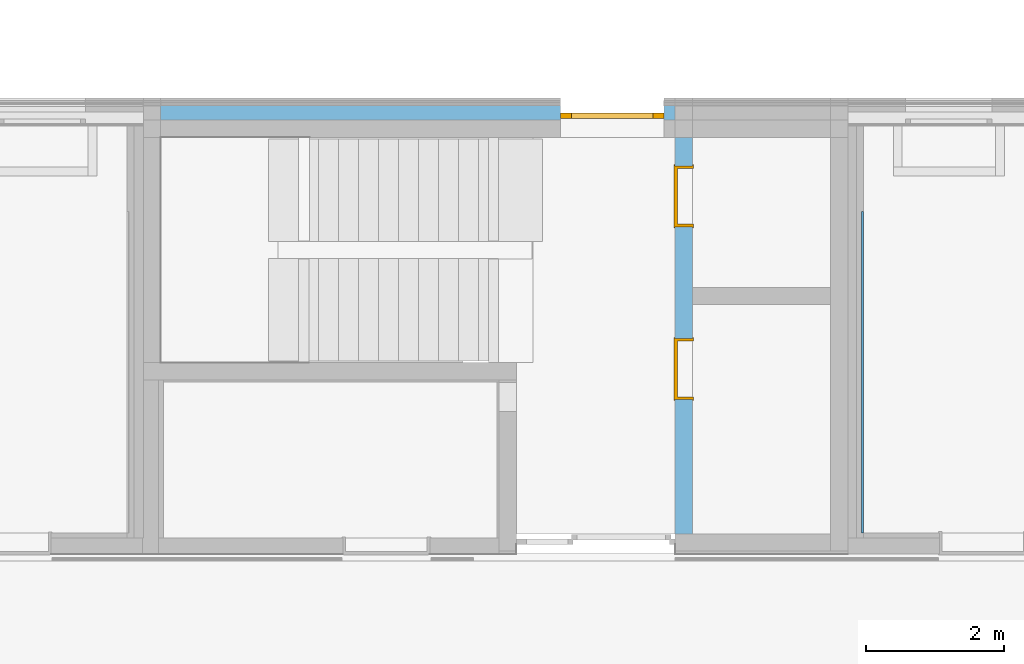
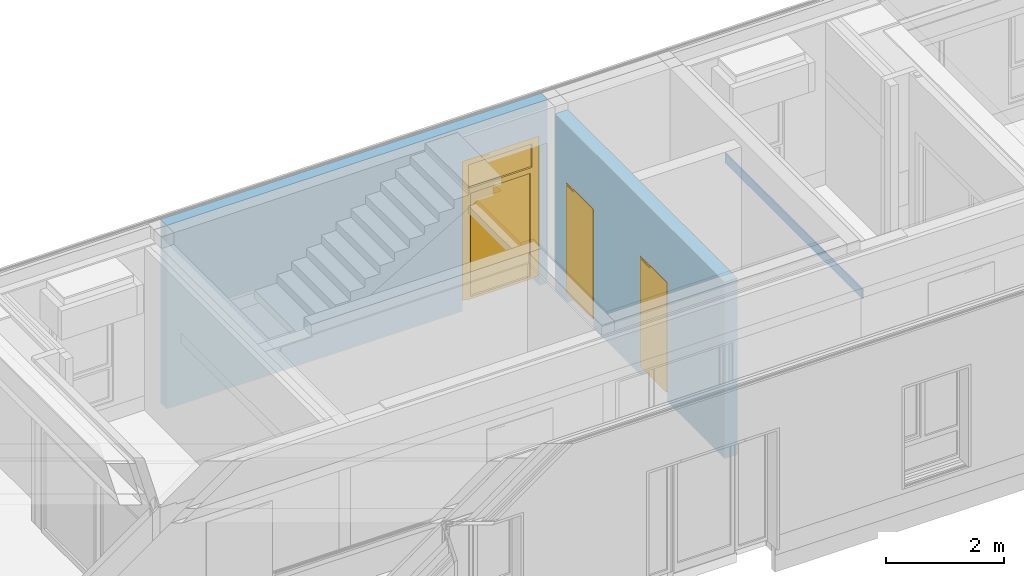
# One storey, part 116 of 207: 3 doors, 1 wall, 3 openings, plus 2 elements that do not belong to this part.
"""IFC4 building model written with IfcOpenShell, lengths in metres."""

from ifc_helpers import new_model, entity, si_unit, converted_unit, derived_unit, frame, frame_2d, origin, origin_with_axes, place, context, subcontext, project, spatial, polyline, rectangle, outline, extrude, closed_shell, open_shell, faceted_brep, surface_model, source, transform, mapped, material, type_object, element, fill, save


model = new_model("IFC4")

# Units and contexts
model_context = context("Model", 3, precision=1e-05, world=origin())
body_context = subcontext(model_context, "Body", "Model", "MODEL_VIEW")
ifc_project = project(units=[si_unit("LENGTHUNIT", "METRE"), si_unit("AREAUNIT", "SQUARE_METRE"), si_unit("VOLUMEUNIT", "CUBIC_METRE"), si_unit("MASSUNIT", "GRAM", prefix="KILO"), converted_unit("PLANEANGLEUNIT", "DEGREE", entity("IfcPlaneAngleMeasure", 0.0174532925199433), si_unit("PLANEANGLEUNIT", "RADIAN"), dimensions=[0, 0, 0, 0, 0, 0, 0]), derived_unit("THERMALTRANSMITTANCEUNIT", [(si_unit("POWERUNIT", "WATT"), 1), (si_unit("THERMODYNAMICTEMPERATUREUNIT", "KELVIN"), -1), (si_unit("LENGTHUNIT", "METRE"), -2)]), derived_unit("VOLUMETRICFLOWRATEUNIT", [(si_unit("LENGTHUNIT", "METRE"), 3), (converted_unit("TIMEUNIT", "hour", entity("IfcTimeMeasure", 3600.0), si_unit("TIMEUNIT", "SECOND"), dimensions=[0, 0, 1, 0, 0, 0, 0]), -1), (si_unit("LENGTHUNIT", "METRE"), -1)])], contexts=[model_context])

# Site, building, storey
site_placement = place(None, origin())
site = spatial("IfcSite", under=ifc_project, at=site_placement, Name="Psychiatrie Neubau Wunstorf", CompositionType="ELEMENT")
building_placement = place(site_placement, origin())
building = spatial("IfcBuilding", under=site, at=building_placement, Name="Neubau H2 Stationsgebäude", CompositionType="ELEMENT")
storey_placement = place(building_placement, frame((0.0, 0.0, -0.2)))
storey = spatial("IfcBuildingStorey", under=building, at=storey_placement, Name="H2 Ebene 0", CompositionType="ELEMENT", Elevation=-0.2)

# Wall, opening, door
ifc_material_1 = material(Name="WA-DL")
wall_1_placement = place(storey_placement, frame((48.15, 29.1449996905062, 0.0)))
wall_1 = element("IfcWall", 1, at=wall_1_placement, inside=storey, material=ifc_material_1, context=body_context, shape_type="SweptSolid", body=[
    extrude(rectangle(XDim=7.45, YDim=0.21, at=frame_2d((3.725, 0.105), x_axis=(1.0, 0.0))), origin_with_axes(), (0.0, 0.0, 1.0), 3.8),
])
opening_1_placement = place(wall_1_placement, frame((7.28750000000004, 0.21, 0.0), z_axis=(0.0, -1.0, 0.0), x_axis=(0.0, 0.0, 1.0)))
opening_1 = element("IfcOpeningElement", 2, at=opening_1_placement, cuts=wall_1, Name="Türöffnung", ObjectType="Opening", context=body_context, shape_type="SweptSolid", body=[
    extrude(outline(polyline([(3.1, 1.5000257), (3.1, 0.0), (0.0, 0.0), (0.0, 1.5000257), (3.1, 1.5000257)])), origin_with_axes(), (0.0, 0.0, 1.0), 0.21),
])
ifc_material_2 = material(Name="TA-1F-AG-D")
door_type_1 = type_object("IfcDoorType", Name="SMT", OperationType="SINGLE_SWING_RIGHT", ParameterTakesPrecedence=False, PredefinedType="DOOR")
shared_shape_1 = source(origin_with_axes(), body_context, "Body", "SurfaceModel", [
    surface_model("IfcShellBasedSurfaceModel", [(0.0, 0.0795, 3.1), (0.0, 0.0795, 0.2), (0.0499999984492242, 0.0795, 0.2), (0.0499999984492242, 0.0795, 3.1), (0.0, 0.0005, 0.2), (0.0, 0.0005, 3.1), (0.0499999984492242, 0.0005, 3.1), (0.0499999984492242, 0.0005, 0.2)], [closed_shell([[[0, 1, 2, 3]], [[4, 5, 6, 7]], [[1, 0, 5, 4]], [[2, 1, 4, 7]], [[3, 2, 7, 6]], [[0, 3, 6, 5]]], orient=[[False], [False], [False], [False], [False], [False]])]),
    surface_model("IfcShellBasedSurfaceModel", [(1.45002570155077, 0.0795, 3.1), (1.45002570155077, 0.0795, 0.2), (1.5000257, 0.0795, 0.2), (1.5000257, 0.0795, 3.1), (1.45002570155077, 0.0005, 0.2), (1.45002570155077, 0.0005, 3.1), (1.5000257, 0.0005, 3.1), (1.5000257, 0.0005, 0.2)], [closed_shell([[[0, 1, 2, 3]], [[4, 5, 6, 7]], [[1, 0, 5, 4]], [[2, 1, 4, 7]], [[3, 2, 7, 6]], [[0, 3, 6, 5]]], orient=[[False], [False], [False], [False], [False], [False]])]),
    surface_model("IfcShellBasedSurfaceModel", [(0.0499999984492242, 0.0795, 3.1), (0.0499999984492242, 0.0795, 3.05), (1.45002570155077, 0.0795, 3.05), (1.45002570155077, 0.0795, 3.1), (0.0499999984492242, 0.0005, 3.05), (0.0499999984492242, 0.0005, 3.1), (1.45002570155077, 0.0005, 3.1), (1.45002570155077, 0.0005, 3.05)], [closed_shell([[[0, 1, 2, 3]], [[4, 5, 6, 7]], [[1, 0, 5, 4]], [[2, 1, 4, 7]], [[3, 2, 7, 6]], [[0, 3, 6, 5]]], orient=[[False], [False], [False], [False], [False], [False]])]),
    surface_model("IfcShellBasedSurfaceModel", [(0.0499999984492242, 0.08, 3.05), (0.0499999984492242, 0.08, 0.2), (0.129999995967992, 0.08, 0.2), (0.129999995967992, 0.08, 3.05), (0.0499999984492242, 0.0, 0.2), (0.0499999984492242, 0.0, 3.05), (0.129999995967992, 0.0, 3.05), (0.129999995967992, 0.0, 0.2)], [closed_shell([[[0, 1, 2, 3]], [[4, 5, 6, 7]], [[1, 0, 5, 4]], [[2, 1, 4, 7]], [[3, 2, 7, 6]], [[0, 3, 6, 5]]], orient=[[False], [False], [False], [False], [False], [False]])]),
    surface_model("IfcShellBasedSurfaceModel", [(1.37002570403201, 0.08, 3.05), (1.37002570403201, 0.08, 0.2), (1.45002570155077, 0.08, 0.2), (1.45002570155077, 0.08, 3.05), (1.37002570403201, 0.0, 0.2), (1.37002570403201, 0.0, 3.05), (1.45002570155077, 0.0, 3.05), (1.45002570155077, 0.0, 0.2)], [closed_shell([[[0, 1, 2, 3]], [[4, 5, 6, 7]], [[1, 0, 5, 4]], [[2, 1, 4, 7]], [[3, 2, 7, 6]], [[0, 3, 6, 5]]], orient=[[False], [False], [False], [False], [False], [False]])]),
    surface_model("IfcShellBasedSurfaceModel", [(0.129999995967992, 0.08, 3.05), (0.129999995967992, 0.08, 2.97), (1.37002570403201, 0.08, 2.97), (1.37002570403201, 0.08, 3.05), (0.129999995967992, 0.0, 2.97), (0.129999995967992, 0.0, 3.05), (1.37002570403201, 0.0, 3.05), (1.37002570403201, 0.0, 2.97)], [closed_shell([[[0, 1, 2, 3]], [[4, 5, 6, 7]], [[1, 0, 5, 4]], [[2, 1, 4, 7]], [[3, 2, 7, 6]], [[0, 3, 6, 5]]], orient=[[False], [False], [False], [False], [False], [False]])]),
    surface_model("IfcShellBasedSurfaceModel", [(0.109999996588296, 0.08, 2.42), (0.109999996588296, 0.08, 0.18), (0.159999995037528, 0.08, 0.18), (0.159999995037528, 0.08, 2.42), (0.109999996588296, 0.0, 0.18), (0.109999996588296, 0.0, 2.42), (0.159999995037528, 0.0, 2.42), (0.159999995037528, 0.0, 0.18)], [closed_shell([[[0, 1, 2, 3]], [[4, 5, 6, 7]], [[1, 0, 5, 4]], [[2, 1, 4, 7]], [[3, 2, 7, 6]], [[0, 3, 6, 5]]], orient=[[False], [False], [False], [False], [False], [False]])]),
    surface_model("IfcShellBasedSurfaceModel", [(1.34002570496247, 0.08, 2.42), (1.34002570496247, 0.08, 0.18), (1.3900257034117, 0.08, 0.18), (1.3900257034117, 0.08, 2.42), (1.34002570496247, 0.0, 0.18), (1.34002570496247, 0.0, 2.42), (1.3900257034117, 0.0, 2.42), (1.3900257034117, 0.0, 0.18)], [closed_shell([[[0, 1, 2, 3]], [[4, 5, 6, 7]], [[1, 0, 5, 4]], [[2, 1, 4, 7]], [[3, 2, 7, 6]], [[0, 3, 6, 5]]], orient=[[False], [False], [False], [False], [False], [False]])]),
    surface_model("IfcShellBasedSurfaceModel", [(0.159999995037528, 0.08, 0.23), (0.159999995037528, 0.08, 0.18), (1.34002570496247, 0.08, 0.18), (1.34002570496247, 0.08, 0.23), (0.159999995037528, 0.0, 0.18), (0.159999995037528, 0.0, 0.23), (1.34002570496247, 0.0, 0.23), (1.34002570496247, 0.0, 0.18)], [closed_shell([[[0, 1, 2, 3]], [[4, 5, 6, 7]], [[1, 0, 5, 4]], [[2, 1, 4, 7]], [[3, 2, 7, 6]], [[0, 3, 6, 5]]], orient=[[False], [False], [False], [False], [False], [False]])]),
    surface_model("IfcShellBasedSurfaceModel", [(0.159999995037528, 0.08, 2.42), (0.159999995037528, 0.08, 2.37), (1.34002570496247, 0.08, 2.37), (1.34002570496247, 0.08, 2.42), (0.159999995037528, 0.0, 2.37), (0.159999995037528, 0.0, 2.42), (1.34002570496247, 0.0, 2.42), (1.34002570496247, 0.0, 2.37)], [closed_shell([[[0, 1, 2, 3]], [[4, 5, 6, 7]], [[1, 0, 5, 4]], [[2, 1, 4, 7]], [[3, 2, 7, 6]], [[0, 3, 6, 5]]], orient=[[False], [False], [False], [False], [False], [False]])]),
    surface_model("IfcShellBasedSurfaceModel", [(0.129999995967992, 0.07, 2.481), (0.129999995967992, 0.07, 2.401), (1.37002570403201, 0.07, 2.401), (1.37002570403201, 0.07, 2.481), (0.129999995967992, 0.0, 2.401), (0.129999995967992, 0.0, 2.481), (1.37002570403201, 0.0, 2.481), (1.37002570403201, 0.0, 2.401)], [closed_shell([[[0, 1, 2, 3]], [[4, 5, 6, 7]], [[1, 0, 5, 4]], [[2, 1, 4, 7]], [[3, 2, 7, 6]], [[0, 3, 6, 5]]], orient=[[False], [False], [False], [False], [False], [False]])]),
    surface_model("IfcShellBasedSurfaceModel", [(0.129999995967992, 0.035, 2.481), (1.37002570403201, 0.035, 2.481), (1.37002570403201, 0.035, 2.97), (0.129999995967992, 0.035, 2.97)], [open_shell([[[0, 1, 2, 3]]], orient=[[False]])]),
    surface_model("IfcShellBasedSurfaceModel", [(0.159999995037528, 0.04, 0.23), (1.34002570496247, 0.04, 0.23), (1.34002570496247, 0.04, 2.37), (0.159999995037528, 0.04, 2.37)], [open_shell([[[0, 1, 2, 3]]], orient=[[False]])]),
])
door_1_placement = place(opening_1_placement, frame((0.0, 1.5000257, 0.189), z_axis=(1.0, 0.0, 0.0), x_axis=(0.0, -1.0, 0.0)))
door_1 = element("IfcDoor", 3, at=door_1_placement, inside=storey, type_object=door_type_1, material=ifc_material_2, Name="SMT", OverallHeight=3.1, OverallWidth=1.50003, context=body_context, shape_type="MappedRepresentation", body=[
    mapped(shared_shape_1, transform((0.0, 0.0, 0.0), x_axis=(1.0, 0.0, 0.0), y_axis=(0.0, 1.0, 0.0), z_axis=(0.0, 0.0, 1.0), scale=1.0)),
])
fill(opening_1, door_1)

# Wall
wall_2_placement = place(storey_placement, frame((58.3, 23.1709999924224, 2.35)))
element("IfcWall", 4, at=wall_2_placement, inside=storey, Name="WV 1.1", context=body_context, shape_type="Brep", body=[
    faceted_brep([(0.025, 4.65, 0.0), (0.0, 4.65, 0.0), (0.0, 0.0, 0.0), (0.025, 0.0, 0.0), (0.0, 4.65, 0.2), (0.025, 4.65, 0.2), (0.025, 0.0, 0.2), (0.0, 0.0, 0.2)], [[[0, 1, 2, 3]], [[4, 5, 6, 7]], [[1, 0, 5, 4]], [[2, 1, 4, 7]], [[3, 2, 7, 6]], [[0, 3, 6, 5]]], orient=[[False], [False], [False], [False], [False], [False]]),
])

# Wall, openings, doors
ifc_material_3 = material(Name="WA-STB")
wall_3_placement = place(storey_placement, frame((55.6, 28.8949996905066, 0.0), z_axis=(0.0, 0.0, 1.0), x_axis=(0.0, -1.0, 0.0)))
wall_3 = element("IfcWall", 5, at=wall_3_placement, inside=storey, material=ifc_material_3, context=body_context, shape_type="SweptSolid", body=[
    extrude(rectangle(XDim=5.73999969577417, YDim=0.25, at=frame_2d((2.86999984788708, 0.125), x_axis=(1.0, 0.0))), origin_with_axes(), (0.0, 0.0, 1.0), 3.65),
])
opening_2_placement = place(wall_3_placement, frame((3.79499984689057, 0.25, 0.0), z_axis=(0.0, -1.0, 0.0), x_axis=(0.0, 0.0, 1.0)))
opening_2 = element("IfcOpeningElement", 6, at=opening_2_placement, cuts=wall_3, Name="Türöffnung", ObjectType="Opening", context=body_context, shape_type="SweptSolid", body=[
    extrude(outline(polyline([(2.46, 0.885), (2.46, 0.0), (0.0, 0.0), (0.0, 0.885), (2.46, 0.885)])), origin_with_axes(), (0.0, 0.0, 1.0), 0.25),
])
opening_3_placement = place(wall_3_placement, frame((1.2949999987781, 0.25, 0.0), z_axis=(0.0, -1.0, 0.0), x_axis=(0.0, 0.0, 1.0)))
opening_3 = element("IfcOpeningElement", 7, at=opening_3_placement, cuts=wall_3, Name="Türöffnung", ObjectType="Opening", context=body_context, shape_type="SweptSolid", body=[
    extrude(outline(polyline([(2.46, 0.885), (2.46, 0.0), (0.0, 0.0), (0.0, 0.885), (2.46, 0.885)])), origin_with_axes(), (0.0, 0.0, 1.0), 0.25),
])
ifc_material_4 = material(Name="TI-1F-UZ-ZK")
door_type_2 = type_object("IfcDoorType", Name="SMT", OperationType="SINGLE_SWING_RIGHT", ParameterTakesPrecedence=False, PredefinedType="DOOR")
shared_shape_2 = source(origin_with_axes(), body_context, "Body", "Brep", [
    faceted_brep([(0.884999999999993, -0.0149999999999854, 2.46), (0.884999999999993, -0.0149999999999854, 0.2), (0.844999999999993, -0.0149999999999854, 0.2), (0.844999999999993, -0.0149999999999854, 2.46), (0.884999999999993, 0.265000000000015, 0.2), (0.884999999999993, 0.265000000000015, 2.46), (0.844999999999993, 0.265000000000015, 2.46), (0.844999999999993, 0.265000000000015, 0.2)], [[[0, 1, 2, 3]], [[4, 5, 6, 7]], [[1, 0, 5, 4]], [[2, 1, 4, 7]], [[3, 2, 7, 6]], [[0, 3, 6, 5]]], orient=[[False], [False], [False], [False], [False], [False]]),
    faceted_brep([(0.884999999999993, -0.0149999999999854, 2.475), (0.899999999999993, -0.0149999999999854, 2.475), (0.899999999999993, -0.0149999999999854, 0.2), (0.884999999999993, -0.0149999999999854, 0.2), (0.884999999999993, 0.0, 0.2), (0.899999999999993, 0.0, 0.2), (0.899999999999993, 0.0, 2.475), (0.884999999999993, 0.0, 2.475)], [[[0, 1, 2, 3]], [[4, 5, 6, 7]], [[3, 4, 7, 0]], [[2, 5, 4, 3]], [[1, 6, 5, 2]], [[0, 7, 6, 1]]], orient=[[False], [False], [False], [False], [False], [False]]),
    faceted_brep([(0.884999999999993, 0.250000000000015, 2.475), (0.899999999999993, 0.250000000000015, 2.475), (0.899999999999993, 0.250000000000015, 0.2), (0.884999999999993, 0.250000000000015, 0.2), (0.884999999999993, 0.265000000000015, 0.2), (0.899999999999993, 0.265000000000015, 0.2), (0.899999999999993, 0.265000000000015, 2.475), (0.884999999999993, 0.265000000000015, 2.475)], [[[0, 1, 2, 3]], [[4, 5, 6, 7]], [[3, 4, 7, 0]], [[2, 5, 4, 3]], [[1, 6, 5, 2]], [[0, 7, 6, 1]]], orient=[[False], [False], [False], [False], [False], [False]]),
    faceted_brep([(0.0399999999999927, -0.0149999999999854, 2.46), (0.0399999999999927, -0.0149999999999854, 0.2), (0.0, -0.0149999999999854, 0.2), (0.0, -0.0149999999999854, 2.46), (0.0399999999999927, 0.265000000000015, 0.2), (0.0399999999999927, 0.265000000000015, 2.46), (0.0, 0.265000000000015, 2.46), (0.0, 0.265000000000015, 0.2)], [[[0, 1, 2, 3]], [[4, 5, 6, 7]], [[1, 0, 5, 4]], [[2, 1, 4, 7]], [[3, 2, 7, 6]], [[0, 3, 6, 5]]], orient=[[False], [False], [False], [False], [False], [False]]),
    faceted_brep([(0.0, -0.0149999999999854, 2.475), (0.0, -0.0149999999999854, 0.2), (-0.0150000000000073, -0.0149999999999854, 0.2), (-0.0150000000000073, -0.0149999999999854, 2.475), (0.0, 0.0, 0.2), (0.0, 0.0, 2.475), (-0.0150000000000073, 0.0, 2.475), (-0.0150000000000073, 0.0, 0.2)], [[[0, 1, 2, 3]], [[4, 5, 6, 7]], [[1, 0, 5, 4]], [[2, 1, 4, 7]], [[3, 2, 7, 6]], [[0, 3, 6, 5]]], orient=[[False], [False], [False], [False], [False], [False]]),
    faceted_brep([(0.0, 0.250000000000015, 2.475), (0.0, 0.250000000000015, 0.2), (-0.0150000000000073, 0.250000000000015, 0.2), (-0.0150000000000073, 0.250000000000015, 2.475), (0.0, 0.265000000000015, 0.2), (0.0, 0.265000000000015, 2.475), (-0.0150000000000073, 0.265000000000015, 2.475), (-0.0150000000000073, 0.265000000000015, 0.2)], [[[0, 1, 2, 3]], [[4, 5, 6, 7]], [[1, 0, 5, 4]], [[2, 1, 4, 7]], [[3, 2, 7, 6]], [[0, 3, 6, 5]]], orient=[[False], [False], [False], [False], [False], [False]]),
    faceted_brep([(0.844999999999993, -0.0149999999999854, 2.46), (0.844999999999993, -0.0149999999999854, 2.42), (0.0399999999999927, -0.0149999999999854, 2.42), (0.0399999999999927, -0.0149999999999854, 2.46), (0.844999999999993, 0.265000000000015, 2.42), (0.844999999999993, 0.265000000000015, 2.46), (0.0399999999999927, 0.265000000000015, 2.46), (0.0399999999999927, 0.265000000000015, 2.42)], [[[0, 1, 2, 3]], [[4, 5, 6, 7]], [[1, 0, 5, 4]], [[2, 1, 4, 7]], [[3, 2, 7, 6]], [[0, 3, 6, 5]]], orient=[[False], [False], [False], [False], [False], [False]]),
    faceted_brep([(0.884999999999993, -0.0149999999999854, 2.475), (0.884999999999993, -0.0149999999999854, 2.46), (0.0, -0.0149999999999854, 2.46), (0.0, -0.0149999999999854, 2.475), (0.884999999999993, 0.0, 2.46), (0.884999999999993, 0.0, 2.475), (0.0, 0.0, 2.475), (0.0, 0.0, 2.46)], [[[0, 1, 2, 3]], [[4, 5, 6, 7]], [[1, 0, 5, 4]], [[2, 1, 4, 7]], [[3, 2, 7, 6]], [[0, 3, 6, 5]]], orient=[[False], [False], [False], [False], [False], [False]]),
    faceted_brep([(0.884999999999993, 0.250000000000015, 2.475), (0.884999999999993, 0.250000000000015, 2.46), (0.0, 0.250000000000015, 2.46), (0.0, 0.250000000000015, 2.475), (0.884999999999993, 0.265000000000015, 2.46), (0.884999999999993, 0.265000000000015, 2.475), (0.0, 0.265000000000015, 2.475), (0.0, 0.265000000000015, 2.46)], [[[0, 1, 2, 3]], [[4, 5, 6, 7]], [[1, 0, 5, 4]], [[2, 1, 4, 7]], [[3, 2, 7, 6]], [[0, 3, 6, 5]]], orient=[[False], [False], [False], [False], [False], [False]]),
    faceted_brep([(0.859999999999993, 0.216000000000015, 2.435), (0.859999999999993, 0.216000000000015, 0.2), (0.0249999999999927, 0.216000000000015, 0.2), (0.0249999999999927, 0.216000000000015, 2.435), (0.859999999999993, 0.266000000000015, 0.2), (0.859999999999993, 0.266000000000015, 2.435), (0.0249999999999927, 0.266000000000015, 2.435), (0.0249999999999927, 0.266000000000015, 0.2)], [[[0, 1, 2, 3]], [[4, 5, 6, 7]], [[1, 0, 5, 4]], [[2, 1, 4, 7]], [[3, 2, 7, 6]], [[0, 3, 6, 5]]], orient=[[False], [False], [False], [False], [False], [False]]),
])
door_2_placement = place(opening_2_placement, frame((0.0, 0.0, 0.0), z_axis=(1.0, 0.0, 0.0), x_axis=(0.0, 1.0, 0.0)))
door_2 = element("IfcDoor", 8, at=door_2_placement, inside=storey, type_object=door_type_2, material=ifc_material_4, Name="SMT", OverallHeight=2.46, OverallWidth=0.885, context=body_context, shape_type="MappedRepresentation", body=[
    mapped(shared_shape_2, transform((0.0, 0.0, 0.0), x_axis=(1.0, 0.0, 0.0), y_axis=(0.0, 1.0, 0.0), z_axis=(0.0, 0.0, 1.0), scale=1.0)),
])
fill(opening_2, door_2)
ifc_material_5 = material(Name="TI-1F-UZ-ZK")
door_type_3 = type_object("IfcDoorType", Name="SMT", OperationType="SINGLE_SWING_RIGHT", ParameterTakesPrecedence=False, PredefinedType="DOOR")
shared_shape_3 = source(origin_with_axes(), body_context, "Body", "Brep", [
    faceted_brep([(0.884999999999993, -0.0149999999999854, 2.46), (0.884999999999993, -0.0149999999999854, 0.2), (0.844999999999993, -0.0149999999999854, 0.2), (0.844999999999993, -0.0149999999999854, 2.46), (0.884999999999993, 0.265000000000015, 0.2), (0.884999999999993, 0.265000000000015, 2.46), (0.844999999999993, 0.265000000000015, 2.46), (0.844999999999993, 0.265000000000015, 0.2)], [[[0, 1, 2, 3]], [[4, 5, 6, 7]], [[1, 0, 5, 4]], [[2, 1, 4, 7]], [[3, 2, 7, 6]], [[0, 3, 6, 5]]], orient=[[False], [False], [False], [False], [False], [False]]),
    faceted_brep([(0.884999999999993, -0.0149999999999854, 2.475), (0.899999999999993, -0.0149999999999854, 2.475), (0.899999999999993, -0.0149999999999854, 0.2), (0.884999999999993, -0.0149999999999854, 0.2), (0.884999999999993, 0.0, 0.2), (0.899999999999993, 0.0, 0.2), (0.899999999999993, 0.0, 2.475), (0.884999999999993, 0.0, 2.475)], [[[0, 1, 2, 3]], [[4, 5, 6, 7]], [[3, 4, 7, 0]], [[2, 5, 4, 3]], [[1, 6, 5, 2]], [[0, 7, 6, 1]]], orient=[[False], [False], [False], [False], [False], [False]]),
    faceted_brep([(0.884999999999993, 0.250000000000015, 2.475), (0.899999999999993, 0.250000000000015, 2.475), (0.899999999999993, 0.250000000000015, 0.2), (0.884999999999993, 0.250000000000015, 0.2), (0.884999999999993, 0.265000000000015, 0.2), (0.899999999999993, 0.265000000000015, 0.2), (0.899999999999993, 0.265000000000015, 2.475), (0.884999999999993, 0.265000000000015, 2.475)], [[[0, 1, 2, 3]], [[4, 5, 6, 7]], [[3, 4, 7, 0]], [[2, 5, 4, 3]], [[1, 6, 5, 2]], [[0, 7, 6, 1]]], orient=[[False], [False], [False], [False], [False], [False]]),
    faceted_brep([(0.0399999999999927, -0.0149999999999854, 2.46), (0.0399999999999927, -0.0149999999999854, 0.2), (0.0, -0.0149999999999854, 0.2), (0.0, -0.0149999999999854, 2.46), (0.0399999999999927, 0.265000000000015, 0.2), (0.0399999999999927, 0.265000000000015, 2.46), (0.0, 0.265000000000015, 2.46), (0.0, 0.265000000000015, 0.2)], [[[0, 1, 2, 3]], [[4, 5, 6, 7]], [[1, 0, 5, 4]], [[2, 1, 4, 7]], [[3, 2, 7, 6]], [[0, 3, 6, 5]]], orient=[[False], [False], [False], [False], [False], [False]]),
    faceted_brep([(0.0, -0.0149999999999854, 2.475), (0.0, -0.0149999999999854, 0.2), (-0.0150000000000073, -0.0149999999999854, 0.2), (-0.0150000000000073, -0.0149999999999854, 2.475), (0.0, 0.0, 0.2), (0.0, 0.0, 2.475), (-0.0150000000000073, 0.0, 2.475), (-0.0150000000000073, 0.0, 0.2)], [[[0, 1, 2, 3]], [[4, 5, 6, 7]], [[1, 0, 5, 4]], [[2, 1, 4, 7]], [[3, 2, 7, 6]], [[0, 3, 6, 5]]], orient=[[False], [False], [False], [False], [False], [False]]),
    faceted_brep([(0.0, 0.250000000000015, 2.475), (0.0, 0.250000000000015, 0.2), (-0.0150000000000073, 0.250000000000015, 0.2), (-0.0150000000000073, 0.250000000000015, 2.475), (0.0, 0.265000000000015, 0.2), (0.0, 0.265000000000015, 2.475), (-0.0150000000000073, 0.265000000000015, 2.475), (-0.0150000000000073, 0.265000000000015, 0.2)], [[[0, 1, 2, 3]], [[4, 5, 6, 7]], [[1, 0, 5, 4]], [[2, 1, 4, 7]], [[3, 2, 7, 6]], [[0, 3, 6, 5]]], orient=[[False], [False], [False], [False], [False], [False]]),
    faceted_brep([(0.844999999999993, -0.0149999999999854, 2.46), (0.844999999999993, -0.0149999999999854, 2.42), (0.0399999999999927, -0.0149999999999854, 2.42), (0.0399999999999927, -0.0149999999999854, 2.46), (0.844999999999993, 0.265000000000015, 2.42), (0.844999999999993, 0.265000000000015, 2.46), (0.0399999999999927, 0.265000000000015, 2.46), (0.0399999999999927, 0.265000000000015, 2.42)], [[[0, 1, 2, 3]], [[4, 5, 6, 7]], [[1, 0, 5, 4]], [[2, 1, 4, 7]], [[3, 2, 7, 6]], [[0, 3, 6, 5]]], orient=[[False], [False], [False], [False], [False], [False]]),
    faceted_brep([(0.884999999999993, -0.0149999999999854, 2.475), (0.884999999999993, -0.0149999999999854, 2.46), (0.0, -0.0149999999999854, 2.46), (0.0, -0.0149999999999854, 2.475), (0.884999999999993, 0.0, 2.46), (0.884999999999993, 0.0, 2.475), (0.0, 0.0, 2.475), (0.0, 0.0, 2.46)], [[[0, 1, 2, 3]], [[4, 5, 6, 7]], [[1, 0, 5, 4]], [[2, 1, 4, 7]], [[3, 2, 7, 6]], [[0, 3, 6, 5]]], orient=[[False], [False], [False], [False], [False], [False]]),
    faceted_brep([(0.884999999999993, 0.250000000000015, 2.475), (0.884999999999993, 0.250000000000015, 2.46), (0.0, 0.250000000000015, 2.46), (0.0, 0.250000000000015, 2.475), (0.884999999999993, 0.265000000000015, 2.46), (0.884999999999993, 0.265000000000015, 2.475), (0.0, 0.265000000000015, 2.475), (0.0, 0.265000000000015, 2.46)], [[[0, 1, 2, 3]], [[4, 5, 6, 7]], [[1, 0, 5, 4]], [[2, 1, 4, 7]], [[3, 2, 7, 6]], [[0, 3, 6, 5]]], orient=[[False], [False], [False], [False], [False], [False]]),
    faceted_brep([(0.859999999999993, 0.216000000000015, 2.435), (0.859999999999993, 0.216000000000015, 0.2), (0.0249999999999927, 0.216000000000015, 0.2), (0.0249999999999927, 0.216000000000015, 2.435), (0.859999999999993, 0.266000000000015, 0.2), (0.859999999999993, 0.266000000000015, 2.435), (0.0249999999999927, 0.266000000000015, 2.435), (0.0249999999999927, 0.266000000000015, 0.2)], [[[0, 1, 2, 3]], [[4, 5, 6, 7]], [[1, 0, 5, 4]], [[2, 1, 4, 7]], [[3, 2, 7, 6]], [[0, 3, 6, 5]]], orient=[[False], [False], [False], [False], [False], [False]]),
])
door_3_placement = place(opening_3_placement, frame((0.0, 0.0, 0.0), z_axis=(1.0, 0.0, 0.0), x_axis=(0.0, 1.0, 0.0)))
door_3 = element("IfcDoor", 9, at=door_3_placement, inside=storey, type_object=door_type_3, material=ifc_material_5, Name="SMT", OverallHeight=2.46, OverallWidth=0.885, context=body_context, shape_type="MappedRepresentation", body=[
    mapped(shared_shape_3, transform((0.0, 0.0, 0.0), x_axis=(1.0, 0.0, 0.0), y_axis=(0.0, 1.0, 0.0), z_axis=(0.0, 0.0, 1.0), scale=1.0)),
])
fill(opening_3, door_3)

save(model, "model.ifc")
